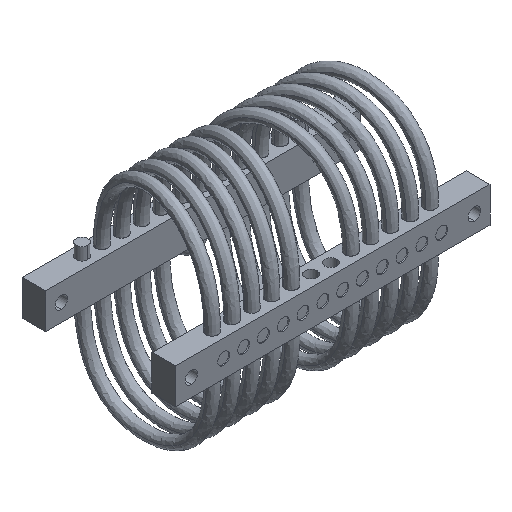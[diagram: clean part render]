
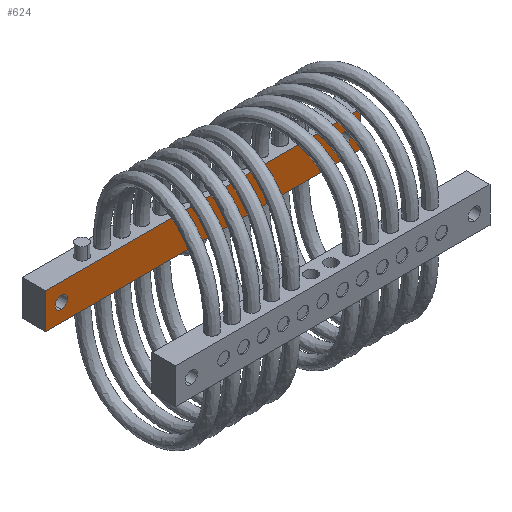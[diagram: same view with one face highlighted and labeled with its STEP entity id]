
A CAD part, isometric view. The second image highlights one B-rep face of the part: STEP entity #624.
In plain terms, the highlighted planar face has unit normal (0, -1, 0).
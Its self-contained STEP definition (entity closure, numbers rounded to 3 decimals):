
#264 = EDGE_CURVE ( 'NONE', #18971, #15696, #12287, .T. ) ;
#283 = CARTESIAN_POINT ( 'NONE',  ( 63.5, 21.5, -7.15 ) ) ;
#370 = VERTEX_POINT ( 'NONE', #3533 ) ;
#579 = CARTESIAN_POINT ( 'NONE',  ( 57.15, 21.5, 2.5 ) ) ;
#624 = ADVANCED_FACE ( 'NONE', ( #1289, #2419, #15598 ), #17627, .F. ) ;
#780 = EDGE_CURVE ( 'NONE', #9933, #370, #9186, .T. ) ;
#857 = DIRECTION ( 'NONE',  ( -1., 0., 0. ) ) ;
#1027 = CARTESIAN_POINT ( 'NONE',  ( 63.5, 21.5, -7.15 ) ) ;
#1289 = FACE_BOUND ( 'NONE', #18099, .T. ) ;
#1416 = CARTESIAN_POINT ( 'NONE',  ( 63.5, 21.5, 7.15 ) ) ;
#1534 = VERTEX_POINT ( 'NONE', #17564 ) ;
#2129 = ORIENTED_EDGE ( 'NONE', *, *, #7260, .T. ) ;
#2165 = VECTOR ( 'NONE', #15005, 1000. ) ;
#2419 = FACE_BOUND ( 'NONE', #14501, .T. ) ;
#2555 = AXIS2_PLACEMENT_3D ( 'NONE', #4396, #16936, #6178 ) ;
#2564 = DIRECTION ( 'NONE',  ( 0., 1., 0. ) ) ;
#2856 = VERTEX_POINT ( 'NONE', #579 ) ;
#3022 = ORIENTED_EDGE ( 'NONE', *, *, #21286, .T. ) ;
#3158 = VERTEX_POINT ( 'NONE', #283 ) ;
#3172 = ORIENTED_EDGE ( 'NONE', *, *, #3950, .T. ) ;
#3367 = AXIS2_PLACEMENT_3D ( 'NONE', #12352, #9909, #9708 ) ;
#3533 = CARTESIAN_POINT ( 'NONE',  ( -57.15, 21.5, -2.5 ) ) ;
#3807 = CARTESIAN_POINT ( 'NONE',  ( 57.15, 21.5, 0. ) ) ;
#3950 = EDGE_CURVE ( 'NONE', #15696, #1534, #23166, .T. ) ;
#4396 = CARTESIAN_POINT ( 'NONE',  ( -57.15, 21.5, 0. ) ) ;
#4624 = CIRCLE ( 'NONE', #18342, 2.5 ) ;
#5612 = DIRECTION ( 'NONE',  ( 0., 0., 1. ) ) ;
#6178 = DIRECTION ( 'NONE',  ( 0., 0., 1. ) ) ;
#6322 = VECTOR ( 'NONE', #857, 1000. ) ;
#6629 = CARTESIAN_POINT ( 'NONE',  ( 57.15, 21.5, -2.5 ) ) ;
#6989 = VECTOR ( 'NONE', #23061, 1000. ) ;
#7260 = EDGE_CURVE ( 'NONE', #2856, #14933, #4624, .T. ) ;
#8054 = LINE ( 'NONE', #16804, #2165 ) ;
#8114 = EDGE_CURVE ( 'NONE', #18971, #3158, #21948, .T. ) ;
#8311 = CARTESIAN_POINT ( 'NONE',  ( -63.5, 21.5, 7.15 ) ) ;
#8409 = CARTESIAN_POINT ( 'NONE',  ( 63.5, 21.5, 7.15 ) ) ;
#9108 = ORIENTED_EDGE ( 'NONE', *, *, #8114, .F. ) ;
#9186 = CIRCLE ( 'NONE', #10617, 2.5 ) ;
#9708 = DIRECTION ( 'NONE',  ( 0., 0., 1. ) ) ;
#9909 = DIRECTION ( 'NONE',  ( 0., 1., 0. ) ) ;
#9933 = VERTEX_POINT ( 'NONE', #15101 ) ;
#10617 = AXIS2_PLACEMENT_3D ( 'NONE', #13783, #13958, #14038 ) ;
#10652 = CARTESIAN_POINT ( 'NONE',  ( -63.5, 21.5, -7.15 ) ) ;
#12287 = LINE ( 'NONE', #1416, #6322 ) ;
#12352 = CARTESIAN_POINT ( 'NONE',  ( 63.5, 21.5, -7.15 ) ) ;
#12607 = EDGE_CURVE ( 'NONE', #370, #9933, #18109, .T. ) ;
#13058 = CIRCLE ( 'NONE', #22108, 2.5 ) ;
#13080 = VECTOR ( 'NONE', #15385, 1000. ) ;
#13334 = CARTESIAN_POINT ( 'NONE',  ( 57.15, 21.5, 0. ) ) ;
#13783 = CARTESIAN_POINT ( 'NONE',  ( -57.15, 21.5, 0. ) ) ;
#13958 = DIRECTION ( 'NONE',  ( 0., 1., 0. ) ) ;
#14038 = DIRECTION ( 'NONE',  ( 0., 0., 1. ) ) ;
#14501 = EDGE_LOOP ( 'NONE', ( #19678, #19986 ) ) ;
#14933 = VERTEX_POINT ( 'NONE', #6629 ) ;
#15005 = DIRECTION ( 'NONE',  ( -1., 0., 0. ) ) ;
#15101 = CARTESIAN_POINT ( 'NONE',  ( -57.15, 21.5, 2.5 ) ) ;
#15121 = DIRECTION ( 'NONE',  ( 0., 0., 1. ) ) ;
#15385 = DIRECTION ( 'NONE',  ( 0., 0., -1. ) ) ;
#15598 = FACE_OUTER_BOUND ( 'NONE', #18897, .T. ) ;
#15696 = VERTEX_POINT ( 'NONE', #8311 ) ;
#16361 = DIRECTION ( 'NONE',  ( 0., 1., 0. ) ) ;
#16804 = CARTESIAN_POINT ( 'NONE',  ( 63.5, 21.5, -7.15 ) ) ;
#16936 = DIRECTION ( 'NONE',  ( 0., 1., 0. ) ) ;
#17403 = EDGE_CURVE ( 'NONE', #3158, #1534, #8054, .T. ) ;
#17564 = CARTESIAN_POINT ( 'NONE',  ( -63.5, 21.5, -7.15 ) ) ;
#17627 = PLANE ( 'NONE',  #3367 ) ;
#18099 = EDGE_LOOP ( 'NONE', ( #2129, #3022 ) ) ;
#18109 = CIRCLE ( 'NONE', #2555, 2.5 ) ;
#18342 = AXIS2_PLACEMENT_3D ( 'NONE', #3807, #16361, #5612 ) ;
#18897 = EDGE_LOOP ( 'NONE', ( #3172, #20318, #9108, #21768 ) ) ;
#18971 = VERTEX_POINT ( 'NONE', #8409 ) ;
#19678 = ORIENTED_EDGE ( 'NONE', *, *, #780, .T. ) ;
#19986 = ORIENTED_EDGE ( 'NONE', *, *, #12607, .T. ) ;
#20318 = ORIENTED_EDGE ( 'NONE', *, *, #17403, .F. ) ;
#21286 = EDGE_CURVE ( 'NONE', #14933, #2856, #13058, .T. ) ;
#21768 = ORIENTED_EDGE ( 'NONE', *, *, #264, .T. ) ;
#21948 = LINE ( 'NONE', #1027, #13080 ) ;
#22108 = AXIS2_PLACEMENT_3D ( 'NONE', #13334, #2564, #15121 ) ;
#23061 = DIRECTION ( 'NONE',  ( 0., 0., -1. ) ) ;
#23166 = LINE ( 'NONE', #10652, #6989 ) ;
